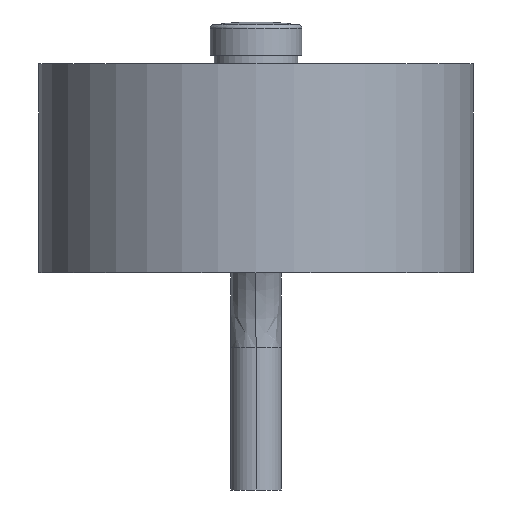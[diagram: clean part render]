
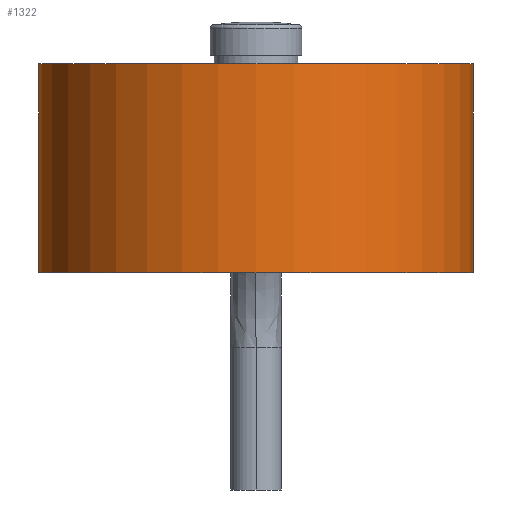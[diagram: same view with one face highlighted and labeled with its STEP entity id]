
A CAD part, left-side view. The second image highlights one B-rep face of the part: STEP entity #1322.
In plain terms, the highlighted free-form (B-spline) face has degree [8, 1] with [9, 2] control points.
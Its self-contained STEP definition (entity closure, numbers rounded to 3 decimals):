
#27=CARTESIAN_POINT('',(0.,0.,0.));
#28=DIRECTION('',(0.,0.,1.));
#29=DIRECTION('',(0.,1.,0.));
#30=AXIS2_PLACEMENT_3D('',#27,#28,#29);
#82=DIRECTION('',(0.,0.,-1.));
#83=VECTOR('',#82,12.5);
#84=CARTESIAN_POINT('',(0.,-13.,12.5));
#85=LINE('',#84,#83);
#86=DIRECTION('',(0.,0.,-1.));
#87=VECTOR('',#86,12.5);
#88=CARTESIAN_POINT('',(0.,13.,12.5));
#89=LINE('',#88,#87);
#95=CARTESIAN_POINT('',(0.,0.,12.5));
#96=DIRECTION('',(0.,0.,-1.));
#97=DIRECTION('',(0.,-1.,0.));
#98=AXIS2_PLACEMENT_3D('',#95,#96,#97);
#1006=CARTESIAN_POINT('',(0.,13.,0.));
#1007=CARTESIAN_POINT('',(0.,-13.,0.));
#1008=VERTEX_POINT('',#1006);
#1009=VERTEX_POINT('',#1007);
#1028=CARTESIAN_POINT('',(0.,13.,12.5));
#1029=VERTEX_POINT('',#1028);
#1030=CARTESIAN_POINT('',(0.,-13.,12.5));
#1031=VERTEX_POINT('',#1030);
#1294=CARTESIAN_POINT('',(0.816,-12.974,12.75));
#1295=CARTESIAN_POINT('',(0.816,-12.974,-0.25));
#1296=CARTESIAN_POINT('',(-4.483,-13.308,12.75));
#1297=CARTESIAN_POINT('',(-4.483,-13.308,-0.25));
#1298=CARTESIAN_POINT('',(-9.937,-11.168,12.75));
#1299=CARTESIAN_POINT('',(-9.937,-11.168,-0.25));
#1300=CARTESIAN_POINT('',(-14.2,-6.474,12.75));
#1301=CARTESIAN_POINT('',(-14.2,-6.474,-0.25));
#1302=CARTESIAN_POINT('',(-15.873,0.002,12.75));
#1303=CARTESIAN_POINT('',(-15.873,0.002,-0.25));
#1304=CARTESIAN_POINT('',(-14.2,6.472,12.75));
#1305=CARTESIAN_POINT('',(-14.2,6.472,-0.25));
#1306=CARTESIAN_POINT('',(-9.937,11.168,12.75));
#1307=CARTESIAN_POINT('',(-9.937,11.168,-0.25));
#1308=CARTESIAN_POINT('',(-4.483,13.308,12.75));
#1309=CARTESIAN_POINT('',(-4.483,13.308,-0.25));
#1310=CARTESIAN_POINT('',(0.816,12.974,12.75));
#1311=CARTESIAN_POINT('',(0.816,12.974,-0.25));
#1312=B_SPLINE_SURFACE_WITH_KNOTS('',8,1,((#1294,#1295),(#1296,#1297),(#1298,
#1299),(#1300,#1301),(#1302,#1303),(#1304,#1305),(#1306,#1307),(#1308,#1309),(
#1310,#1311)),.UNSPECIFIED.,.F.,.F.,.F.,(9,9),(2,2),(0.,
3.267),(-6.5,6.5),.UNSPECIFIED.);
#1314=ORIENTED_EDGE('',*,*,#1313,.F.);
#1316=ORIENTED_EDGE('',*,*,#1315,.F.);
#1318=ORIENTED_EDGE('',*,*,#1317,.T.);
#1319=ORIENTED_EDGE('',*,*,#1267,.F.);
#1320=EDGE_LOOP('',(#1314,#1316,#1318,#1319));
#1321=FACE_OUTER_BOUND('',#1320,.F.);
#1322=ADVANCED_FACE('',(#1321),#1312,.T.);
#31=CIRCLE('',#30,13.);
#99=CIRCLE('',#98,13.);
#1267=EDGE_CURVE('',#1008,#1009,#31,.T.);
#1313=EDGE_CURVE('',#1029,#1008,#89,.T.);
#1315=EDGE_CURVE('',#1031,#1029,#99,.T.);
#1317=EDGE_CURVE('',#1031,#1009,#85,.T.);
